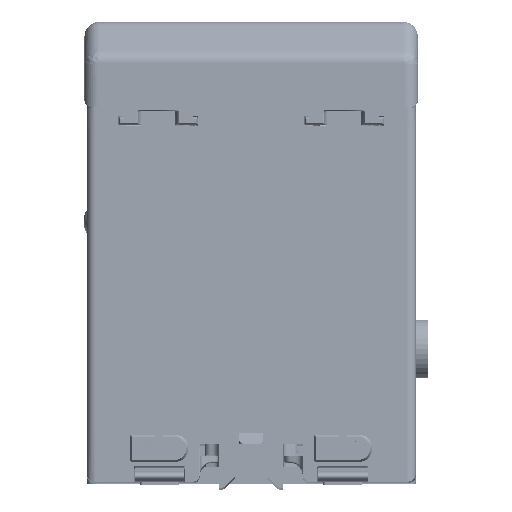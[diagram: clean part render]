
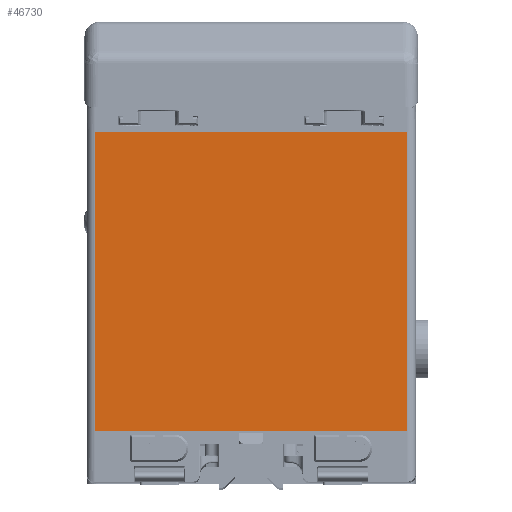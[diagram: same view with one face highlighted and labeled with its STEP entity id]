
A CAD part, top view. The second image highlights one B-rep face of the part: STEP entity #46730.
In plain terms, the highlighted planar face has unit normal (0, 0, 1) as drawn and (1, 0, 0) by its records, which use the part's own axes.
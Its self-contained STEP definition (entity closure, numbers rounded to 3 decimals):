
#3772 = VECTOR ( 'NONE', #34734, 1000. ) ;
#9942 = ORIENTED_EDGE ( 'NONE', *, *, #122873, .F. ) ;
#10332 = LINE ( 'NONE', #11880, #112002 ) ;
#11880 = CARTESIAN_POINT ( 'NONE',  ( 27.371, 71., -37. ) ) ;
#22180 = VECTOR ( 'NONE', #69584, 1000. ) ;
#22981 = EDGE_CURVE ( 'NONE', #55343, #25350, #118362, .T. ) ;
#24277 = CARTESIAN_POINT ( 'NONE',  ( 27.371, 71., -37. ) ) ;
#25350 = VERTEX_POINT ( 'NONE', #114847 ) ;
#30112 = EDGE_LOOP ( 'NONE', ( #46558, #82997, #9942, #82039 ) ) ;
#34734 = DIRECTION ( 'NONE',  ( 0., -1., 0. ) ) ;
#35891 = PLANE ( 'NONE',  #107253 ) ;
#46558 = ORIENTED_EDGE ( 'NONE', *, *, #22981, .T. ) ;
#46730 = ADVANCED_FACE ( 'NONE', ( #105250 ), #35891, .F. ) ;
#47133 = CARTESIAN_POINT ( 'NONE',  ( 27.371, 71., 37. ) ) ;
#55343 = VERTEX_POINT ( 'NONE', #79729 ) ;
#57964 = CARTESIAN_POINT ( 'NONE',  ( 27.371, 71., -37. ) ) ;
#58019 = DIRECTION ( 'NONE',  ( 0., 0., 1. ) ) ;
#69584 = DIRECTION ( 'NONE',  ( 0., 0., -1. ) ) ;
#70061 = DIRECTION ( 'NONE',  ( 0., -1., 0. ) ) ;
#72215 = DIRECTION ( 'NONE',  ( -1., 0., 0. ) ) ;
#79729 = CARTESIAN_POINT ( 'NONE',  ( 27.371, 0., 37. ) ) ;
#82039 = ORIENTED_EDGE ( 'NONE', *, *, #114128, .T. ) ;
#82835 = DIRECTION ( 'NONE',  ( 0., 0., -1. ) ) ;
#82997 = ORIENTED_EDGE ( 'NONE', *, *, #100777, .F. ) ;
#84011 = CARTESIAN_POINT ( 'NONE',  ( 27.371, 71., -37. ) ) ;
#100777 = EDGE_CURVE ( 'NONE', #109130, #25350, #106235, .T. ) ;
#105250 = FACE_OUTER_BOUND ( 'NONE', #30112, .T. ) ;
#106235 = LINE ( 'NONE', #24277, #126626 ) ;
#107253 = AXIS2_PLACEMENT_3D ( 'NONE', #84011, #72215, #58019 ) ;
#109130 = VERTEX_POINT ( 'NONE', #57964 ) ;
#112002 = VECTOR ( 'NONE', #82835, 1000. ) ;
#114128 = EDGE_CURVE ( 'NONE', #118003, #55343, #151645, .T. ) ;
#114847 = CARTESIAN_POINT ( 'NONE',  ( 27.371, 0., -37. ) ) ;
#118003 = VERTEX_POINT ( 'NONE', #47133 ) ;
#118362 = LINE ( 'NONE', #127097, #22180 ) ;
#122873 = EDGE_CURVE ( 'NONE', #118003, #109130, #10332, .T. ) ;
#126626 = VECTOR ( 'NONE', #70061, 1000. ) ;
#127097 = CARTESIAN_POINT ( 'NONE',  ( 27.371, 0., -37. ) ) ;
#150062 = CARTESIAN_POINT ( 'NONE',  ( 27.371, 71., 37. ) ) ;
#151645 = LINE ( 'NONE', #150062, #3772 ) ;
